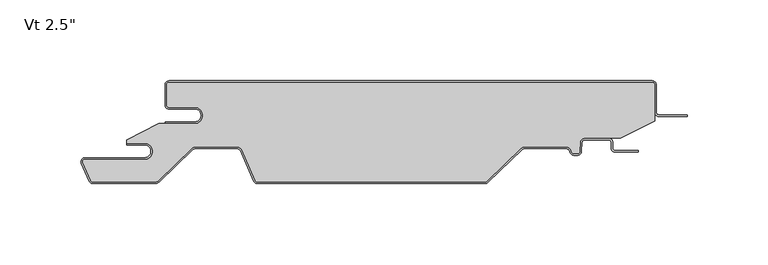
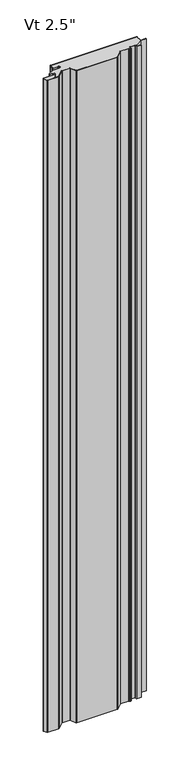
"""IFC4 building model written with IfcOpenShell, lengths in millimetres: plate geometry."""

from ifc_helpers import new_model, si_unit, point, frame_2d, origin, origin_with_axes, place, context, project, spatial, polyline, circle_curve, trimmed, segment, composite_curve, outline, extrude, source, transform, mapped, element, save


def plate_56a13f22(model_context):
    return source(origin(), model_context, "Body", "SweptSolid", [
        extrude(outline(composite_curve([segment(trimmed(circle_curve(frame_2d((-133.35, -21.4324412)), 4.96875), [point((-133.35, -26.4011912))], [point((-133.35, -16.4636912))], True, "CARTESIAN"), True, "CONTINUOUS"), segment(polyline([(-133.35, -16.4636912), (-149.225, -16.4636912)]), True, "CONTINUOUS"), segment(trimmed(circle_curve(frame_2d((-149.225, -15.0824412)), 1.38125), [point((-149.225, -16.4636912))], [point((-150.60625, -15.0824412))], False, "CARTESIAN"), True, "CONTINUOUS"), segment(polyline([(-150.60625, -15.0824412), (-150.60625, -2.3824412)]), True, "CONTINUOUS"), segment(trimmed(circle_curve(frame_2d((-149.225, -2.3824412)), 1.38125), [point((-150.60625, -2.3824412))], [point((-149.225, -1.0011912))], False, "CARTESIAN"), True, "CONTINUOUS"), segment(polyline([(-149.225, -1.0011912), (149.225, -1.0011912)]), True, "CONTINUOUS"), segment(trimmed(circle_curve(frame_2d((149.225, -2.3824412)), 1.38125), [point((149.225, -1.0011912))], [point((150.60625, -2.3824412))], False, "CARTESIAN"), True, "CONTINUOUS"), segment(polyline([(150.60625, -2.3824412), (150.60625, -24.8719682), (129.7892934, -35.5136912), (107.3620957, -35.5136912)]), True, "CONTINUOUS"), segment(trimmed(circle_curve(frame_2d((107.3620957, -38.1011912)), 2.5875), [point((107.3620957, -35.5136912))], [point((104.7781418, -37.9657719))], True, "CARTESIAN"), True, "CONTINUOUS"), segment(polyline([(104.7781418, -37.9657719), (104.4760655, -43.7297302)]), True, "CONTINUOUS"), segment(trimmed(circle_curve(frame_2d((103.0967085, -43.6574412)), 1.38125), [point((104.4760655, -43.7297302))], [point((103.0967085, -45.0386912))], False, "CARTESIAN"), True, "CONTINUOUS"), segment(polyline([(103.0967085, -45.0386912), (100.7692019, -45.0386912)]), True, "CONTINUOUS"), segment(trimmed(circle_curve(frame_2d((100.7692019, -43.6574412)), 1.38125), [point((100.7692019, -45.0386912))], [point((99.5062016, -44.2166208))], False, "CARTESIAN"), True, "CONTINUOUS"), segment(polyline([(99.5062016, -44.2166208), (98.7577806, -42.5261871)]), True, "CONTINUOUS"), segment(trimmed(circle_curve(frame_2d((96.3917981, -43.5737)), 2.5875), [point((98.7577806, -42.5261871))], [point((96.3917981, -40.9862))], True, "CARTESIAN"), True, "CONTINUOUS"), segment(polyline([(96.3917981, -40.9862), (69.8679503, -40.9862)]), True, "CONTINUOUS"), segment(trimmed(circle_curve(frame_2d((69.8679503, -43.5737)), 2.5875), [point((69.8679503, -40.9862))], [point((68.0682996, -41.7145567))], True, "CARTESIAN"), True, "CONTINUOUS"), segment(polyline([(68.0682996, -41.7145567), (46.9973962, -62.1111912)]), True, "CONTINUOUS"), segment(trimmed(circle_curve(frame_2d((46.0367131, -61.11875)), 1.38125), [point((46.9973962, -62.1111912))], [point((46.0367131, -62.5))], False, "CARTESIAN"), True, "CONTINUOUS"), segment(polyline([(46.0367131, -62.5), (-94.6999943, -62.5)]), True, "CONTINUOUS"), segment(trimmed(circle_curve(frame_2d((-94.6999943, -61.11875)), 1.38125), [point((-94.6999943, -62.5))], [point((-95.9629946, -61.6779296))], False, "CARTESIAN"), True, "CONTINUOUS"), segment(polyline([(-95.9629946, -61.6779296), (-104.4422194, -42.5261871)]), True, "CONTINUOUS"), segment(trimmed(circle_curve(frame_2d((-106.8082019, -43.5737)), 2.5875), [point((-104.4422194, -42.5261871))], [point((-106.8082019, -40.9862))], True, "CARTESIAN"), True, "CONTINUOUS"), segment(polyline([(-106.8082019, -40.9862), (-133.3320497, -40.9862)]), True, "CONTINUOUS"), segment(trimmed(circle_curve(frame_2d((-133.3320497, -43.5737)), 2.5875), [point((-133.3320497, -40.9862))], [point((-135.1317004, -41.7145567))], True, "CARTESIAN"), True, "CONTINUOUS"), segment(polyline([(-135.1317004, -41.7145567), (-155.9939431, -61.9092077)]), True, "CONTINUOUS"), segment(trimmed(circle_curve(frame_2d((-157.4536946, -60.4012)), 2.0988), [point((-155.9939431, -61.9092077))], [point((-157.4536946, -62.5))], False, "CARTESIAN"), True, "CONTINUOUS"), segment(polyline([(-157.4536946, -62.5), (-196.2999943, -62.5)]), True, "CONTINUOUS"), segment(trimmed(circle_curve(frame_2d((-196.2999943, -61.11875)), 1.38125), [point((-196.2999943, -62.5))], [point((-197.5629946, -61.6779296))], False, "CARTESIAN"), True, "CONTINUOUS"), segment(polyline([(-197.5629946, -61.6779296), (-202.4824052, -50.5666208)]), True, "CONTINUOUS"), segment(trimmed(circle_curve(frame_2d((-201.2194049, -50.0074412)), 1.38125), [point((-202.4824052, -50.5666208))], [point((-201.2194049, -48.6261912))], False, "CARTESIAN"), True, "CONTINUOUS"), segment(polyline([(-201.2194049, -48.6261912), (-164.30625, -48.6261912)]), True, "CONTINUOUS"), segment(trimmed(circle_curve(frame_2d((-164.30625, -43.6574412)), 4.96875), [point((-164.30625, -48.6261912))], [point((-164.30625, -38.6886912))], True, "CARTESIAN"), True, "CONTINUOUS"), segment(polyline([(-164.30625, -38.6886912), (-175.41875, -38.6886912), (-175.41875, -36.533822), (-155.5976612, -26.4011912), (-133.35, -26.4011912)]), True, "CONTINUOUS")], self_intersect=False)), origin_with_axes(), (0.0, 0.0, 1.0), 2400.0),
        extrude(outline(composite_curve([segment(polyline([(-151.60625, -25.4), (-133.35, -25.4)]), True, "CONTINUOUS"), segment(trimmed(circle_curve(frame_2d((-133.35, -21.43125)), 3.96875), [point((-133.35, -25.4))], [point((-133.35, -17.4625))], True, "CARTESIAN"), True, "CONTINUOUS"), segment(polyline([(-133.35, -17.4625), (-149.225, -17.4625)]), True, "CONTINUOUS"), segment(trimmed(circle_curve(frame_2d((-149.225, -15.08125)), 2.38125), [point((-149.225, -17.4625))], [point((-151.60625, -15.08125))], False, "CARTESIAN"), True, "CONTINUOUS"), segment(polyline([(-151.60625, -15.08125), (-151.60625, -2.38125)]), True, "CONTINUOUS"), segment(trimmed(circle_curve(frame_2d((-149.225, -2.38125)), 2.38125), [point((-151.60625, -2.38125))], [point((-149.225, 0.0))], False, "CARTESIAN"), True, "CONTINUOUS"), segment(polyline([(-149.225, 0.0), (149.225, 0.0)]), True, "CONTINUOUS"), segment(trimmed(circle_curve(frame_2d((149.225, -2.38125)), 2.38125), [point((149.225, 0.0))], [point((151.60625, -2.38125))], False, "CARTESIAN"), True, "CONTINUOUS"), segment(polyline([(151.60625, -2.38125), (151.60625, -19.446875)]), True, "CONTINUOUS"), segment(trimmed(circle_curve(frame_2d((153.19375, -19.446875)), 1.5875), [point((151.60625, -19.446875))], [point((153.19375, -21.034375))], True, "CARTESIAN"), True, "CONTINUOUS"), segment(polyline([(153.19375, -21.034375), (170.65625, -21.034375), (170.65625, -22.034375), (153.19375, -22.034375)]), True, "CONTINUOUS"), segment(trimmed(circle_curve(frame_2d((153.19375, -19.446875)), 2.5875), [point((153.19375, -22.034375))], [point((150.60625, -19.446875))], False, "CARTESIAN"), True, "CONTINUOUS"), segment(polyline([(150.60625, -19.446875), (150.60625, -2.38125)]), True, "CONTINUOUS"), segment(trimmed(circle_curve(frame_2d((149.225, -2.38125)), 1.38125), [point((150.60625, -2.38125))], [point((149.225, -1.0))], True, "CARTESIAN"), True, "CONTINUOUS"), segment(polyline([(149.225, -1.0), (-149.225, -1.0)]), True, "CONTINUOUS"), segment(trimmed(circle_curve(frame_2d((-149.225, -2.38125)), 1.38125), [point((-149.225, -1.0))], [point((-150.60625, -2.38125))], True, "CARTESIAN"), True, "CONTINUOUS"), segment(polyline([(-150.60625, -2.38125), (-150.60625, -15.08125)]), True, "CONTINUOUS"), segment(trimmed(circle_curve(frame_2d((-149.225, -15.08125)), 1.38125), [point((-150.60625, -15.08125))], [point((-149.225, -16.4625))], True, "CARTESIAN"), True, "CONTINUOUS"), segment(polyline([(-149.225, -16.4625), (-133.35, -16.4625)]), True, "CONTINUOUS"), segment(trimmed(circle_curve(frame_2d((-133.35, -21.43125)), 4.96875), [point((-133.35, -16.4625))], [point((-133.35, -26.4))], False, "CARTESIAN"), True, "CONTINUOUS"), segment(polyline([(-133.35, -26.4), (-151.60625, -26.4), (-151.60625, -25.4)]), True, "CONTINUOUS")], self_intersect=False)), origin_with_axes(), (0.0, 0.0, 1.0), 2400.0),
        extrude(outline(composite_curve([segment(trimmed(circle_curve(frame_2d((-164.30625, -43.6574412)), 3.96875), [point((-164.30625, -47.6261912))], [point((-164.30625, -39.6886912))], True, "CARTESIAN"), True, "CONTINUOUS"), segment(polyline([(-164.30625, -39.6886912), (-175.41875, -39.6886912), (-175.41875, -38.6886912), (-164.30625, -38.6886912)]), True, "CONTINUOUS"), segment(trimmed(circle_curve(frame_2d((-164.30625, -43.6574412)), 4.96875), [point((-164.30625, -38.6886912))], [point((-164.30625, -48.6261912))], False, "CARTESIAN"), True, "CONTINUOUS"), segment(polyline([(-164.30625, -48.6261912), (-201.2194049, -48.6261912)]), True, "CONTINUOUS"), segment(trimmed(circle_curve(frame_2d((-201.2194049, -50.0074412)), 1.38125), [point((-201.2194049, -48.6261912))], [point((-202.4824052, -50.5666208))], True, "CARTESIAN"), True, "CONTINUOUS"), segment(polyline([(-202.4824052, -50.5666208), (-197.5629946, -61.6779296)]), True, "CONTINUOUS"), segment(trimmed(circle_curve(frame_2d((-196.2999943, -61.11875)), 1.38125), [point((-197.5629946, -61.6779296))], [point((-196.2999943, -62.5))], True, "CARTESIAN"), True, "CONTINUOUS"), segment(polyline([(-196.2999943, -62.5), (-157.4536946, -62.5)]), True, "CONTINUOUS"), segment(trimmed(circle_curve(frame_2d((-157.4536946, -60.4012)), 2.0988), [point((-157.4536946, -62.5))], [point((-155.9939431, -61.9092077))], True, "CARTESIAN"), True, "CONTINUOUS"), segment(polyline([(-155.9939431, -61.9092077), (-135.1317004, -41.7145567)]), True, "CONTINUOUS"), segment(trimmed(circle_curve(frame_2d((-133.3320497, -43.5737)), 2.5875), [point((-135.1317004, -41.7145567))], [point((-133.3320497, -40.9862))], False, "CARTESIAN"), True, "CONTINUOUS"), segment(polyline([(-133.3320497, -40.9862), (-106.8082019, -40.9862)]), True, "CONTINUOUS"), segment(trimmed(circle_curve(frame_2d((-106.8082019, -43.5737)), 2.5875), [point((-106.8082019, -40.9862))], [point((-104.4422194, -42.5261871))], False, "CARTESIAN"), True, "CONTINUOUS"), segment(polyline([(-104.4422194, -42.5261871), (-95.9629946, -61.6779296)]), True, "CONTINUOUS"), segment(trimmed(circle_curve(frame_2d((-94.6999943, -61.11875)), 1.38125), [point((-95.9629946, -61.6779296))], [point((-94.6999943, -62.5))], True, "CARTESIAN"), True, "CONTINUOUS"), segment(polyline([(-94.6999943, -62.5), (46.0367131, -62.5)]), True, "CONTINUOUS"), segment(trimmed(circle_curve(frame_2d((46.0367131, -61.11875)), 1.38125), [point((46.0367131, -62.5))], [point((46.9973962, -62.1111912))], True, "CARTESIAN"), True, "CONTINUOUS"), segment(polyline([(46.9973962, -62.1111912), (68.0682996, -41.7145567)]), True, "CONTINUOUS"), segment(trimmed(circle_curve(frame_2d((69.8679503, -43.5737)), 2.5875), [point((68.0682996, -41.7145567))], [point((69.8679503, -40.9862))], False, "CARTESIAN"), True, "CONTINUOUS"), segment(polyline([(69.8679503, -40.9862), (96.3917981, -40.9862)]), True, "CONTINUOUS"), segment(trimmed(circle_curve(frame_2d((96.3917981, -43.5737)), 2.5875), [point((96.3917981, -40.9862))], [point((98.7577806, -42.5261871))], False, "CARTESIAN"), True, "CONTINUOUS"), segment(polyline([(98.7577806, -42.5261871), (99.5062016, -44.2166208)]), True, "CONTINUOUS"), segment(trimmed(circle_curve(frame_2d((100.7692019, -43.6574412)), 1.38125), [point((99.5062016, -44.2166208))], [point((100.7692019, -45.0386912))], True, "CARTESIAN"), True, "CONTINUOUS"), segment(polyline([(100.7692019, -45.0386912), (103.0967085, -45.0386912)]), True, "CONTINUOUS"), segment(trimmed(circle_curve(frame_2d((103.0967085, -43.6574412)), 1.38125), [point((103.0967085, -45.0386912))], [point((104.4760655, -43.7297302))], True, "CARTESIAN"), True, "CONTINUOUS"), segment(polyline([(104.4760655, -43.7297302), (104.7781418, -37.9657719)]), True, "CONTINUOUS"), segment(trimmed(circle_curve(frame_2d((107.3620957, -38.1011912)), 2.5875), [point((104.7781418, -37.9657719))], [point((107.3620957, -35.5136912))], False, "CARTESIAN"), True, "CONTINUOUS"), segment(polyline([(107.3620957, -35.5136912), (122.2375, -35.5136912)]), True, "CONTINUOUS"), segment(trimmed(circle_curve(frame_2d((122.2375, -38.1011912)), 2.5875), [point((122.2375, -35.5136912))], [point((124.825, -38.1011912))], False, "CARTESIAN"), True, "CONTINUOUS"), segment(polyline([(124.825, -38.1011912), (124.825, -41.6730662)]), True, "CONTINUOUS"), segment(trimmed(circle_curve(frame_2d((126.20625, -41.6730662)), 1.38125), [point((124.825, -41.6730662))], [point((126.20625, -43.0543162))], True, "CARTESIAN"), True, "CONTINUOUS"), segment(polyline([(126.20625, -43.0543162), (140.49375, -43.0543162), (140.49375, -44.0543162), (126.20625, -44.0543162)]), True, "CONTINUOUS"), segment(trimmed(circle_curve(frame_2d((126.20625, -41.6730662)), 2.38125), [point((126.20625, -44.0543162))], [point((123.825, -41.6730662))], False, "CARTESIAN"), True, "CONTINUOUS"), segment(polyline([(123.825, -41.6730662), (123.825, -38.1011912)]), True, "CONTINUOUS"), segment(trimmed(circle_curve(frame_2d((122.2375, -38.1011912)), 1.5875), [point((123.825, -38.1011912))], [point((122.2375, -36.5136912))], True, "CARTESIAN"), True, "CONTINUOUS"), segment(polyline([(122.2375, -36.5136912), (107.3620957, -36.5136912)]), True, "CONTINUOUS"), segment(trimmed(circle_curve(frame_2d((107.3620957, -38.1011912)), 1.5875), [point((107.3620957, -36.5136912))], [point((105.7767713, -38.0181078))], True, "CARTESIAN"), True, "CONTINUOUS"), segment(polyline([(105.7767713, -38.0181078), (105.4746951, -43.7820662)]), True, "CONTINUOUS"), segment(trimmed(circle_curve(frame_2d((103.0967085, -43.6574412)), 2.38125), [point((105.4746951, -43.7820662))], [point((103.0967085, -46.0386912))], False, "CARTESIAN"), True, "CONTINUOUS"), segment(polyline([(103.0967085, -46.0386912), (100.7692019, -46.0386912)]), True, "CONTINUOUS"), segment(trimmed(circle_curve(frame_2d((100.7692019, -43.6574412)), 2.38125), [point((100.7692019, -46.0386912))], [point((98.5918123, -44.6214567))], False, "CARTESIAN"), True, "CONTINUOUS"), segment(polyline([(98.5918123, -44.6214567), (97.8433912, -42.931023)]), True, "CONTINUOUS"), segment(trimmed(circle_curve(frame_2d((96.3917981, -43.5737)), 1.5875), [point((97.8433912, -42.931023))], [point((96.3917981, -41.9862))], True, "CARTESIAN"), True, "CONTINUOUS"), segment(polyline([(96.3917981, -41.9862), (69.8679503, -41.9862)]), True, "CONTINUOUS"), segment(trimmed(circle_curve(frame_2d((69.8679503, -43.5737)), 1.5875), [point((69.8679503, -41.9862))], [point((68.7638168, -42.4330662))], True, "CARTESIAN"), True, "CONTINUOUS"), segment(polyline([(68.7638168, -42.4330662), (47.6929134, -62.8297007)]), True, "CONTINUOUS"), segment(trimmed(circle_curve(frame_2d((46.0367131, -61.11875)), 2.38125), [point((47.6929134, -62.8297007))], [point((46.0367131, -63.5))], False, "CARTESIAN"), True, "CONTINUOUS"), segment(polyline([(46.0367131, -63.5), (-94.6999943, -63.5)]), True, "CONTINUOUS"), segment(trimmed(circle_curve(frame_2d((-94.6999943, -61.11875)), 2.38125), [point((-94.6999943, -63.5))], [point((-96.8773839, -62.0827655))], False, "CARTESIAN"), True, "CONTINUOUS"), segment(polyline([(-96.8773839, -62.0827655), (-105.3566088, -42.931023)]), True, "CONTINUOUS"), segment(trimmed(circle_curve(frame_2d((-106.8082019, -43.5737)), 1.5875), [point((-105.3566088, -42.931023))], [point((-106.8082019, -41.9862))], True, "CARTESIAN"), True, "CONTINUOUS"), segment(polyline([(-106.8082019, -41.9862), (-133.3320497, -41.9862)]), True, "CONTINUOUS"), segment(trimmed(circle_curve(frame_2d((-133.3320497, -43.5737)), 1.5875), [point((-133.3320497, -41.9862))], [point((-134.4361832, -42.4330662))], True, "CARTESIAN"), True, "CONTINUOUS"), segment(polyline([(-134.4361832, -42.4330662), (-155.2984259, -62.6277172)]), True, "CONTINUOUS"), segment(trimmed(circle_curve(frame_2d((-157.4536946, -60.4012)), 3.0988), [point((-155.2984259, -62.6277172))], [point((-157.4536946, -63.5))], False, "CARTESIAN"), True, "CONTINUOUS"), segment(polyline([(-157.4536946, -63.5), (-196.2999943, -63.5)]), True, "CONTINUOUS"), segment(trimmed(circle_curve(frame_2d((-196.2999943, -61.11875)), 2.38125), [point((-196.2999943, -63.5))], [point((-198.4773839, -62.0827655))], False, "CARTESIAN"), True, "CONTINUOUS"), segment(polyline([(-198.4773839, -62.0827655), (-203.3967946, -50.9714567)]), True, "CONTINUOUS"), segment(trimmed(circle_curve(frame_2d((-201.2194049, -50.0074412)), 2.38125), [point((-203.3967946, -50.9714567))], [point((-201.2194049, -47.6261912))], False, "CARTESIAN"), True, "CONTINUOUS"), segment(polyline([(-201.2194049, -47.6261912), (-164.30625, -47.6261912)]), True, "CONTINUOUS")], self_intersect=False)), origin_with_axes(), (0.0, 0.0, 1.0), 2400.0),
    ])


if __name__ == "__main__":
    model = new_model("IFC4")
    model_context = context("Model", 3, world=origin())
    ifc_project = project(units=[si_unit("LENGTHUNIT", "METRE", prefix="MILLI")], contexts=[model_context])
    site = spatial("IfcSite", under=ifc_project)
    building = spatial("IfcBuilding", under=site)
    placement = place(None, origin())
    plate_shape = plate_56a13f22(model_context)
    element("IfcPlate", 1, ObjectType="KIP-12-DWR-R19-CP-Vt-A : Vt 2.5\"", at=placement, inside=building, context=model_context, shape_type="MappedRepresentation", body=[
        mapped(plate_shape, transform((0.0, 0.0, 0.0), x_axis=(1.0, 0.0, 0.0), y_axis=(0.0, 1.0, 0.0), z_axis=(0.0, 0.0, 1.0))),
    ])
    save(model, "model.ifc")
